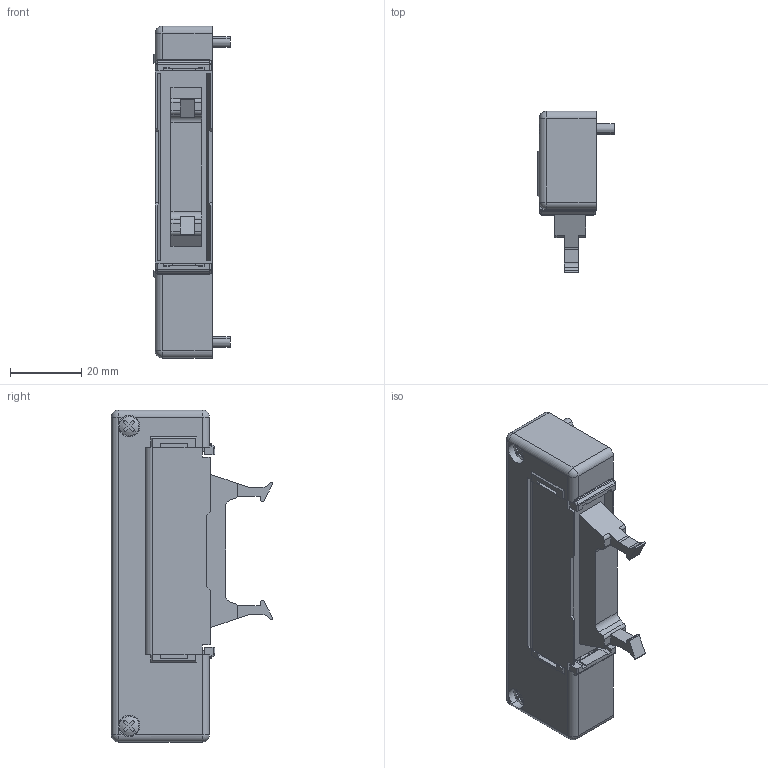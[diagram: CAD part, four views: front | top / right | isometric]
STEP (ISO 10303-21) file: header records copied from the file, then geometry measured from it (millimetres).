
FILE_DESCRIPTION( (''), '2;1');
FILE_NAME ('CVICAD02.288.FZX-F20xN_11588.stp','2020-08-31T10:47:26',(''),(''),'spGate 12.6.6','','');
FILE_SCHEMA (('AUTOMOTIVE_DESIGN'));
Length unit declared in the file: millimetre
Products named in the file (3): Assembly; CVICAD02-prt0; CVICAD02-prt1
Assembly tree (2 placements, depth 2):
  Assembly
    CVICAD02-prt0
    CVICAD02-prt1
Bounding box: 21.4 x 45.2 x 93 mm (x, y, z)
Volume: 36222.5 mm3; surface area: 14522.4 mm2
Topology: 2 solids, 2 shells, 327 faces, 952 edges, 610 vertices
Faces by surface type: plane 225, cylinder 77, sphere 20, bspline 5
Entity records: 18088 total; most frequent: CARTESIAN_POINT 2093, ORIENTED_EDGE 1872, DIRECTION 1764, COLOUR_RGB 1265, PRESENTATION_STYLE_ASSIGNMENT 1265, STYLED_ITEM 1265, EDGE_CURVE 936, DRAUGHTING_PRE_DEFINED_CURVE_FONT 936
